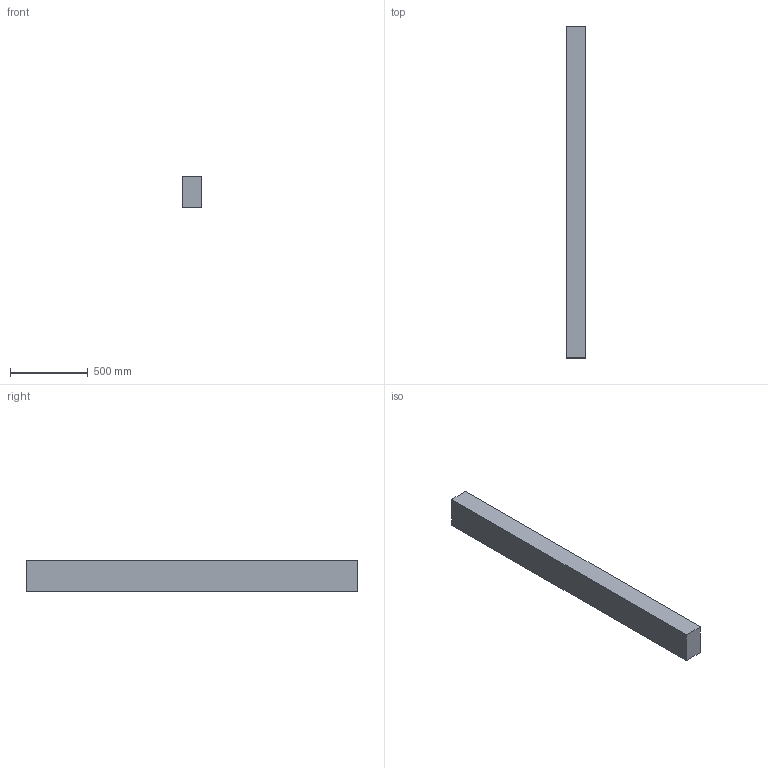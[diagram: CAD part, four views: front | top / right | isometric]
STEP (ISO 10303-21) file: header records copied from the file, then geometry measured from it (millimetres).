
FILE_DESCRIPTION(/* description */ (''),/* implementation_level */ '2;1');
FILE_NAME(/* name */ '5x8x84',/* time_stamp */ '2024-09-20T11:46:30-05:00',/* author */ (''),/* organization */ (''),/* preprocessor_version */ 'ST-DEVELOPER v19.2',/* originating_system */ 'Rhino 8.5',/* authorisation */ '');
FILE_SCHEMA (('CONFIG_CONTROL_DESIGN'));
Length unit declared in the file: inch
Products named in the file (1): Document
Bounding box: 127 x 2133.6 x 203.2 mm (x, y, z)
Volume: 55060535 mm3; surface area: 1460642.2 mm2
Topology: 1 solids, 1 shells, 6 faces, 12 edges, 8 vertices
Faces by surface type: plane 6
Entity records: 226 total; most frequent: CARTESIAN_POINT 40, ORIENTED_EDGE 24, EDGE_CURVE 12, B_SPLINE_CURVE_WITH_KNOTS 12, DIRECTION 10, VERTEX_POINT 8, AXIS2_PLACEMENT_3D 8, ORGANIZATION 7
